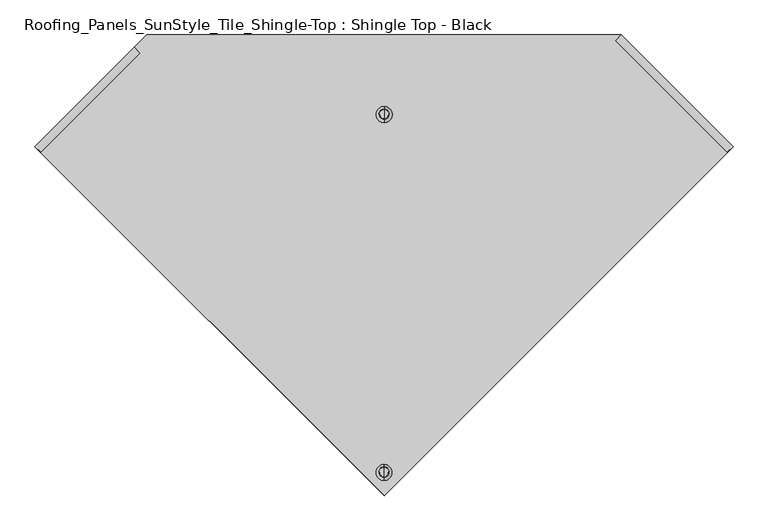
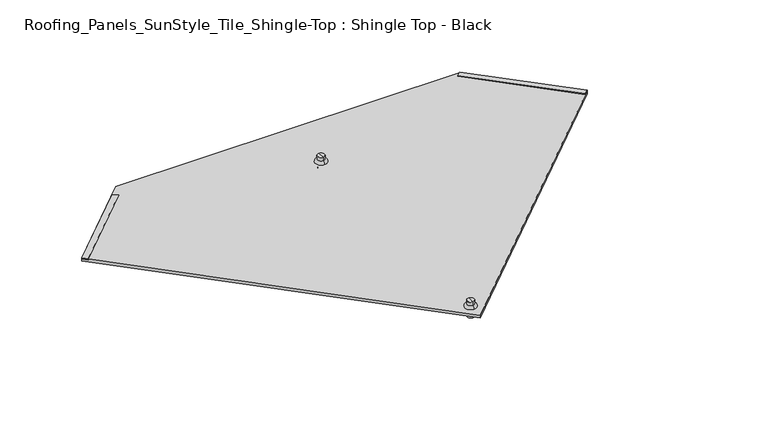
"""IFC4 building model written with IfcOpenShell, lengths in millimetres: proxy geometry, Roofing_Panels_SunStyle_Tile_Shingle-Top : Shingle Top - Black."""

from ifc_helpers import new_model, si_unit, point, frame, frame_2d, origin, place, context, project, spatial, polyline, circle_curve, ellipse_curve, trimmed, segment, composite_curve, outline, extrude, source, transform, mapped, element, save
from ifc_brep_helpers import plane_surface, cylinder_surface, revolved_surface, advanced_brep


def roofing_panels_sunstyle_tile_shingle_top_shingle_top_black_4c6098d4(model_context):
    return source(origin(), model_context, "Body", "SolidModel", [
        extrude(outline(polyline([(0.0, -12.0000001), (0.0, 0.0), (211.9535765, 0.0), (211.9535765, -12.0), (0.0, -12.0000001)])), frame((-526.8811233, -88.5018869, 16.3055258), z_axis=(0.0, 0.01674516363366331, 0.9998597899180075), x_axis=(0.7071563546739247, 0.706958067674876, -0.01183978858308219)), (0.0, 0.0, 1.0), 1.5),
        advanced_brep(
        [(0.1663666, -46.602236, 17.7421994), (0.1663666, -33.2691554, 17.5189035), (0.1663666, -33.6374645, -4.4729659), (0.1663666, -46.9705451, -4.2496699), (0.1663666, -52.1014648, 17.8342978), (0.1663666, -27.7699266, 17.4268051), (0.1663666, -47.1524685, 22.7481046), (0.1663666, -32.5516056, 22.5035765), (0.1663666, -39.7180086, 30.6287287), (0.1663666, -32.4175771, 30.5064647), (0.1663666, -47.0184401, 30.7509928), (0.1663666, -40.3040048, -4.3613179)],
        [
            (0, 1, circle_curve(frame((0.1663666, -39.9356957, 17.6305515), z_axis=(0.0, -0.016745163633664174, -0.9998597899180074), x_axis=(0.0, 0.9998597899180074, -0.016745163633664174)), 6.6674751)),
            (1, 2),
            (2, 3, circle_curve(frame((0.1663666, -40.3040048, -4.3613179), z_axis=(0.0, 0.016745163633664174, 0.9998597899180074), x_axis=(0.0, 0.9998597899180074, -0.016745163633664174)), 6.6674751)),
            (3, 0),
            (1, 0, circle_curve(frame((0.1663666, -39.9356957, 17.6305515), z_axis=(0.0, -0.016745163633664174, -0.9998597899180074), x_axis=(0.0, 0.9998597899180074, -0.016745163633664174)), 6.6674751)),
            (3, 2, circle_curve(frame((0.1663666, -40.3040048, -4.3613179), z_axis=(0.0, 0.016745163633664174, 0.9998597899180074), x_axis=(0.0, 0.9998597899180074, -0.016745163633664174)), 6.6674751)),
            (4, 5, circle_curve(frame((0.1663666, -39.9356957, 17.6305515), z_axis=(0.0, -0.016745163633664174, -0.9998597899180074), x_axis=(0.0, 0.9998597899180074, -0.016745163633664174)), 12.1674751)),
            (5, 1),
            (0, 4),
            (5, 4, circle_curve(frame((0.1663666, -39.9356957, 17.6305515), z_axis=(0.0, -0.016745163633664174, -0.9998597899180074), x_axis=(0.0, 0.9998597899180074, -0.016745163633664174)), 12.1674751)),
            (6, 7, circle_curve(frame((0.1663666, -39.852037, 22.6258405), z_axis=(0.0, -0.016745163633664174, -0.9998597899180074), x_axis=(0.0, 0.9998597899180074, -0.016745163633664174)), 7.3014552)),
            (7, 5, circle_curve(frame((0.1663666, -32.8558035, 17.4268051), z_axis=(-1.0, 0.0, 0.0), x_axis=(0.0, -1.0, 0.0)), 5.0858769)),
            (4, 6, circle_curve(frame((0.1663666, -47.0184401, 17.663994), z_axis=(-1.0, 0.0, 0.0), x_axis=(0.0, 0.9994391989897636, -0.03348563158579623)), 5.0858769)),
            (7, 6, circle_curve(frame((0.1663666, -39.852037, 22.6258405), z_axis=(0.0, -0.016745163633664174, -0.9998597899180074), x_axis=(0.0, 0.9998597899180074, -0.016745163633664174)), 7.3014552)),
            (8, 9),
            (9, 10, circle_curve(frame((0.1663666, -39.7180086, 30.6287287), z_axis=(0.0, 0.016745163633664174, 0.9998597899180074), x_axis=(0.0, 0.9998597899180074, -0.016745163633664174)), 7.3014552)),
            (10, 8),
            (10, 9, circle_curve(frame((0.1663666, -39.7180086, 30.6287287), z_axis=(0.0, 0.016745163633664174, 0.9998597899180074), x_axis=(0.0, 0.9998597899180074, -0.016745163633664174)), 7.3014552)),
            (2, 11),
            (11, 3),
            (9, 7),
            (6, 10),
        ],
        [
            cylinder_surface(frame((0.1663666, -39.7180086, 30.6287287), z_axis=(0.0, 0.016745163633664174, 0.9998597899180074), x_axis=(0.0, 0.9998597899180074, -0.016745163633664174)), 6.6674751),
            plane_surface(frame((0.1663666, -39.9356957, 17.6305515), z_axis=(0.0, -0.016745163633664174, -0.9998597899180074), x_axis=(0.0, 0.9998597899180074, -0.016745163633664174))),
            revolved_surface(trimmed(ellipse_curve(frame((0.1663666, -32.8558035, 17.4268051), z_axis=(1.0, 0.0, 0.0), x_axis=(0.0, -1.0, 0.0)), 5.0858769, 5.0858769), [point((0.1663666, -27.7699266, 17.4268051))], [point((0.1663666, -32.5516056, 22.5035765))], True, "CARTESIAN"), (0.1663666, -39.7180086, 30.6287287), (0.0, 0.016745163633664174, 0.9998597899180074)),
            plane_surface(frame((0.1663666, -39.7180086, 30.6287287), z_axis=(0.0, 0.016745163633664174, 0.9998597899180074), x_axis=(0.0, 0.9998597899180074, -0.016745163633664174))),
            plane_surface(frame((0.1663666, -40.3040048, -4.3613179), z_axis=(0.0, -0.016745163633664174, -0.9998597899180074), x_axis=(0.0, 0.9998597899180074, -0.016745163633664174))),
            cylinder_surface(frame((0.1663666, -39.7180086, 30.6287287), z_axis=(0.0, 0.016745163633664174, 0.9998597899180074), x_axis=(0.0, 0.9998597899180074, -0.016745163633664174)), 7.3014552),
        ],
        [
            (0, [[1, 2, 3, 4]]),
            (0, [[5, -4, 6, -2]]),
            (1, [[7, 8, -1, 9]]),
            (1, [[10, -9, -5, -8]]),
            (2, [[11, 12, -7, 13]]),
            (2, [[14, -13, -10, -12]]),
            (3, [[15, 16, 17]]),
            (3, [[-17, 18, -15]]),
            (4, [[-3, 19, 20]]),
            (4, [[-6, -20, -19]]),
            (5, [[-16, 21, -11, 22]]),
            (5, [[-18, -22, -14, -21]]),
        ],
    ),
        advanced_brep(
        [(0.0, -586.8919099, 26.2215343), (0.0, -573.5588293, 25.9982384), (0.0, -573.9271384, 4.0063691), (0.0, -587.260219, 4.229665), (0.0, -592.3911387, 26.3136327), (0.0, -568.0596005, 25.90614), (0.0, -587.4421424, 31.2274395), (0.0, -572.8412795, 30.9829114), (0.0, -580.0076825, 39.1080636), (0.0, -572.707251, 38.9857996), (0.0, -587.3081139, 39.2303277), (0.0, -580.5936787, 4.118017)],
        [
            (0, 1, circle_curve(frame((0.0, -580.2253696, 26.1098864), z_axis=(0.0, -0.016745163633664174, -0.9998597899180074), x_axis=(0.0, 0.9998597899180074, -0.016745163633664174)), 6.6674751)),
            (1, 2),
            (2, 3, circle_curve(frame((0.0, -580.5936787, 4.118017), z_axis=(0.0, 0.016745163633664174, 0.9998597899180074), x_axis=(0.0, 0.9998597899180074, -0.016745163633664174)), 6.6674751)),
            (3, 0),
            (1, 0, circle_curve(frame((0.0, -580.2253696, 26.1098864), z_axis=(0.0, -0.016745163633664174, -0.9998597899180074), x_axis=(0.0, 0.9998597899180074, -0.016745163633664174)), 6.6674751)),
            (3, 2, circle_curve(frame((0.0, -580.5936787, 4.118017), z_axis=(0.0, 0.016745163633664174, 0.9998597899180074), x_axis=(0.0, 0.9998597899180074, -0.016745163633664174)), 6.6674751)),
            (4, 5, circle_curve(frame((0.0, -580.2253696, 26.1098864), z_axis=(0.0, -0.016745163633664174, -0.9998597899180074), x_axis=(0.0, 0.9998597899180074, -0.016745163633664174)), 12.1674751)),
            (5, 1),
            (0, 4),
            (5, 4, circle_curve(frame((0.0, -580.2253696, 26.1098864), z_axis=(0.0, -0.016745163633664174, -0.9998597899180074), x_axis=(0.0, 0.9998597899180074, -0.016745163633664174)), 12.1674751)),
            (6, 7, circle_curve(frame((0.0, -580.1417109, 31.1051755), z_axis=(0.0, -0.016745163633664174, -0.9998597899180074), x_axis=(0.0, 0.9998597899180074, -0.016745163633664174)), 7.3014552)),
            (7, 5, circle_curve(frame((0.0, -573.1454774, 25.90614), z_axis=(-1.0, 0.0, 0.0), x_axis=(0.0, -1.0, 0.0)), 5.0858769)),
            (4, 6, circle_curve(frame((0.0, -587.3081139, 26.1433289), z_axis=(-1.0, 0.0, 0.0), x_axis=(0.0, 0.9994391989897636, -0.03348563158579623)), 5.0858769)),
            (7, 6, circle_curve(frame((0.0, -580.1417109, 31.1051755), z_axis=(0.0, -0.016745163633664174, -0.9998597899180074), x_axis=(0.0, 0.9998597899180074, -0.016745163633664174)), 7.3014552)),
            (8, 9),
            (9, 10, circle_curve(frame((0.0, -580.0076825, 39.1080636), z_axis=(0.0, 0.016745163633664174, 0.9998597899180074), x_axis=(0.0, 0.9998597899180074, -0.016745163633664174)), 7.3014552)),
            (10, 8),
            (10, 9, circle_curve(frame((0.0, -580.0076825, 39.1080636), z_axis=(0.0, 0.016745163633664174, 0.9998597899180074), x_axis=(0.0, 0.9998597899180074, -0.016745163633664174)), 7.3014552)),
            (2, 11),
            (11, 3),
            (9, 7),
            (6, 10),
        ],
        [
            cylinder_surface(frame((0.0, -580.0076825, 39.1080636), z_axis=(0.0, 0.016745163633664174, 0.9998597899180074), x_axis=(0.0, 0.9998597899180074, -0.016745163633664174)), 6.6674751),
            plane_surface(frame((0.0, -580.2253696, 26.1098864), z_axis=(0.0, -0.016745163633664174, -0.9998597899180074), x_axis=(0.0, 0.9998597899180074, -0.016745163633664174))),
            revolved_surface(trimmed(ellipse_curve(frame((0.0, -573.1454774, 25.90614), z_axis=(1.0, 0.0, 0.0), x_axis=(0.0, -1.0, 0.0)), 5.0858769, 5.0858769), [point((0.0, -568.0596005, 25.90614))], [point((0.0, -572.8412795, 30.9829114))], True, "CARTESIAN"), (0.0, -580.0076825, 39.1080636), (0.0, 0.016745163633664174, 0.9998597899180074)),
            plane_surface(frame((0.0, -580.0076825, 39.1080636), z_axis=(0.0, 0.016745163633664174, 0.9998597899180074), x_axis=(0.0, 0.9998597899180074, -0.016745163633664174))),
            plane_surface(frame((0.0, -580.5936787, 4.118017), z_axis=(0.0, -0.016745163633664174, -0.9998597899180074), x_axis=(0.0, 0.9998597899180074, -0.016745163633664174))),
            cylinder_surface(frame((0.0, -580.0076825, 39.1080636), z_axis=(0.0, 0.016745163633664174, 0.9998597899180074), x_axis=(0.0, 0.9998597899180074, -0.016745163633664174)), 7.3014552),
        ],
        [
            (0, [[1, 2, 3, 4]]),
            (0, [[5, -4, 6, -2]]),
            (1, [[7, 8, -1, 9]]),
            (1, [[10, -9, -5, -8]]),
            (2, [[11, 12, -7, 13]]),
            (2, [[14, -13, -10, -12]]),
            (3, [[15, 16, 17]]),
            (3, [[-17, 18, -15]]),
            (4, [[-3, 19, 20]]),
            (4, [[-6, -20, -19]]),
            (5, [[-16, 21, -11, 22]]),
            (5, [[-18, -22, -14, -21]]),
        ],
    ),
        extrude(outline(polyline([(-1e-07, -12.0), (0.0, 0.0), (238.6082651, 0.0), (238.6082651, -12.0), (-1e-07, -12.0)])), frame((518.4827519, -96.8754983, 17.9260478), z_axis=(0.0, 0.016745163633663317, 0.9998597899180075), x_axis=(-0.7071563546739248, 0.7069580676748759, -0.011839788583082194)), (0.0, 0.0, 1.0), 1.5),
        extrude(outline(polyline([(-107.1705292, 0.0), (61.5628218, -168.7096929), (-465.4042941, -695.6029226), (-992.37141, -168.7096929), (-823.638059, 0.0), (-107.1705292, 0.0)]), holes=[composite_curve([segment(trimmed(circle_curve(frame_2d((-465.4046166, -660.2708457)), 8.0), [point((-473.4046166, -660.2708457))], [point((-457.4046166, -660.2708457))], True, "CARTESIAN"), True, "CONTINUOUS"), segment(trimmed(circle_curve(frame_2d((-465.4046166, -660.2708457)), 8.0), [point((-457.4046166, -660.2708457))], [point((-473.4046166, -660.2708457))], True, "CARTESIAN"), True, "CONTINUOUS")], self_intersect=False), composite_curve([segment(trimmed(circle_curve(frame_2d((-465.3862085, -120.2006047)), 8.0), [point((-473.3862085, -120.2006047))], [point((-457.3862085, -120.2006047))], True, "CARTESIAN"), True, "CONTINUOUS"), segment(trimmed(circle_curve(frame_2d((-465.3862085, -120.2006047)), 8.0), [point((-457.3862085, -120.2006047))], [point((-473.3862085, -120.2006047))], True, "CARTESIAN"), True, "CONTINUOUS")], self_intersect=False)]), frame((465.4046166, 80.1947552, 8.9597203), z_axis=(0.0, 0.01674516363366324, 0.9998597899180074), x_axis=(1.0, 0.0, 0.0)), (0.0, 0.0, 1.0), 6.0),
    ])


if __name__ == "__main__":
    model = new_model("IFC4")
    model_context = context("Model", 3, world=origin())
    ifc_project = project(units=[si_unit("LENGTHUNIT", "METRE", prefix="MILLI")], contexts=[model_context])
    site = spatial("IfcSite", under=ifc_project)
    building = spatial("IfcBuilding", under=site)
    placement = place(None, origin())
    roofing_panels_sunstyle_tile_shingle_top_shingle_top_black_shape = roofing_panels_sunstyle_tile_shingle_top_shingle_top_black_4c6098d4(model_context)
    element("IfcBuildingElementProxy", 1, Name="Roofing_Panels_SunStyle_Tile_Shingle-Top : Shingle Top - Black", ObjectType="Roofing_Panels_SunStyle_Tile_Shingle-Top : Shingle Top - Black", at=placement, inside=building, context=model_context, shape_type="MappedRepresentation", body=[
        mapped(roofing_panels_sunstyle_tile_shingle_top_shingle_top_black_shape, transform((0.0, 0.0, 0.0), x_axis=(1.0, 0.0, 0.0), y_axis=(0.0, 1.0, 0.0), z_axis=(0.0, 0.0, 1.0))),
    ])
    save(model, "model.ifc")
